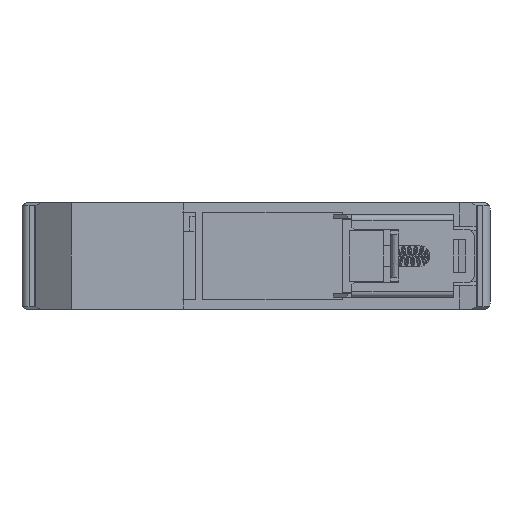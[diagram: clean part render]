
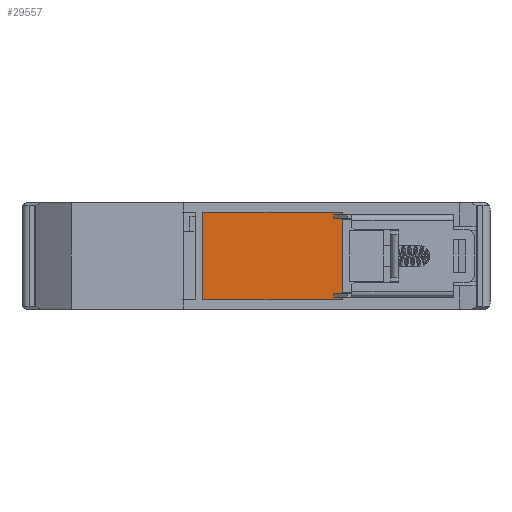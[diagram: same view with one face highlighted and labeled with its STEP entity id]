
A CAD part, front view. The second image highlights one B-rep face of the part: STEP entity #29557.
In plain terms, the highlighted planar face has unit normal (0, -1, 0).
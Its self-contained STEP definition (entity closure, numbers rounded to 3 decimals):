
#27787 = PLANE('',#27788);
#27788 = AXIS2_PLACEMENT_3D('',#27789,#27790,#27791);
#27789 = CARTESIAN_POINT('',(264.589,-404.101,154.75));
#27790 = DIRECTION('',(-1.,0.,0.));
#27791 = DIRECTION('',(0.,-1.,0.));
#29408 = VERTEX_POINT('',#29409);
#29409 = CARTESIAN_POINT('',(264.589,-402.101,164.05));
#29423 = PLANE('',#29424);
#29424 = AXIS2_PLACEMENT_3D('',#29425,#29426,#29427);
#29425 = CARTESIAN_POINT('',(196.789,-338.976,164.05));
#29426 = DIRECTION('',(0.,0.,-1.));
#29427 = DIRECTION('',(-1.,0.,0.));
#29435 = EDGE_CURVE('',#29408,#29436,#29438,.T.);
#29436 = VERTEX_POINT('',#29437);
#29437 = CARTESIAN_POINT('',(264.589,-402.101,145.5));
#29438 = SURFACE_CURVE('',#29439,(#29443,#29450),.PCURVE_S1.);
#29439 = LINE('',#29440,#29441);
#29440 = CARTESIAN_POINT('',(264.589,-402.101,164.05));
#29441 = VECTOR('',#29442,1.);
#29442 = DIRECTION('',(0.,0.,-1.));
#29443 = PCURVE('',#27787,#29444);
#29444 = DEFINITIONAL_REPRESENTATION('',(#29445),#29449);
#29445 = LINE('',#29446,#29447);
#29446 = CARTESIAN_POINT('',(-2.,9.3));
#29447 = VECTOR('',#29448,1.);
#29448 = DIRECTION('',(0.,-1.));
#29449 = ( GEOMETRIC_REPRESENTATION_CONTEXT(2) 
PARAMETRIC_REPRESENTATION_CONTEXT() REPRESENTATION_CONTEXT('2D SPACE',''
  ) );
#29450 = PCURVE('',#29451,#29456);
#29451 = PLANE('',#29452);
#29452 = AXIS2_PLACEMENT_3D('',#29453,#29454,#29455);
#29453 = CARTESIAN_POINT('',(264.589,-402.101,154.75));
#29454 = DIRECTION('',(0.,-1.,0.));
#29455 = DIRECTION('',(-1.,0.,0.));
#29456 = DEFINITIONAL_REPRESENTATION('',(#29457),#29461);
#29457 = LINE('',#29458,#29459);
#29458 = CARTESIAN_POINT('',(0.,-9.3));
#29459 = VECTOR('',#29460,1.);
#29460 = DIRECTION('',(-0.,1.));
#29461 = ( GEOMETRIC_REPRESENTATION_CONTEXT(2) 
PARAMETRIC_REPRESENTATION_CONTEXT() REPRESENTATION_CONTEXT('2D SPACE',''
  ) );
#29479 = PLANE('',#29480);
#29480 = AXIS2_PLACEMENT_3D('',#29481,#29482,#29483);
#29481 = CARTESIAN_POINT('',(196.789,-338.976,145.5));
#29482 = DIRECTION('',(0.,0.,1.));
#29483 = DIRECTION('',(-1.,0.,0.));
#29557 = ADVANCED_FACE('',(#29558),#29451,.T.);
#29558 = FACE_BOUND('',#29559,.T.);
#29559 = EDGE_LOOP('',(#29560,#29590,#29611,#29612));
#29560 = ORIENTED_EDGE('',*,*,#29561,.T.);
#29561 = EDGE_CURVE('',#29562,#29564,#29566,.T.);
#29562 = VERTEX_POINT('',#29563);
#29563 = CARTESIAN_POINT('',(234.989,-402.101,164.05));
#29564 = VERTEX_POINT('',#29565);
#29565 = CARTESIAN_POINT('',(234.989,-402.101,145.5));
#29566 = SURFACE_CURVE('',#29567,(#29571,#29578),.PCURVE_S1.);
#29567 = LINE('',#29568,#29569);
#29568 = CARTESIAN_POINT('',(234.989,-402.101,164.05));
#29569 = VECTOR('',#29570,1.);
#29570 = DIRECTION('',(0.,0.,-1.));
#29571 = PCURVE('',#29451,#29572);
#29572 = DEFINITIONAL_REPRESENTATION('',(#29573),#29577);
#29573 = LINE('',#29574,#29575);
#29574 = CARTESIAN_POINT('',(29.6,-9.3));
#29575 = VECTOR('',#29576,1.);
#29576 = DIRECTION('',(-0.,1.));
#29577 = ( GEOMETRIC_REPRESENTATION_CONTEXT(2) 
PARAMETRIC_REPRESENTATION_CONTEXT() REPRESENTATION_CONTEXT('2D SPACE',''
  ) );
#29578 = PCURVE('',#29579,#29584);
#29579 = PLANE('',#29580);
#29580 = AXIS2_PLACEMENT_3D('',#29581,#29582,#29583);
#29581 = CARTESIAN_POINT('',(234.989,-402.101,154.75));
#29582 = DIRECTION('',(1.,0.,0.));
#29583 = DIRECTION('',(0.,-1.,0.));
#29584 = DEFINITIONAL_REPRESENTATION('',(#29585),#29589);
#29585 = LINE('',#29586,#29587);
#29586 = CARTESIAN_POINT('',(0.,-9.3));
#29587 = VECTOR('',#29588,1.);
#29588 = DIRECTION('',(0.,1.));
#29589 = ( GEOMETRIC_REPRESENTATION_CONTEXT(2) 
PARAMETRIC_REPRESENTATION_CONTEXT() REPRESENTATION_CONTEXT('2D SPACE',''
  ) );
#29590 = ORIENTED_EDGE('',*,*,#29591,.F.);
#29591 = EDGE_CURVE('',#29436,#29564,#29592,.T.);
#29592 = SURFACE_CURVE('',#29593,(#29597,#29604),.PCURVE_S1.);
#29593 = LINE('',#29594,#29595);
#29594 = CARTESIAN_POINT('',(264.589,-402.101,145.5));
#29595 = VECTOR('',#29596,1.);
#29596 = DIRECTION('',(-1.,0.,0.));
#29597 = PCURVE('',#29451,#29598);
#29598 = DEFINITIONAL_REPRESENTATION('',(#29599),#29603);
#29599 = LINE('',#29600,#29601);
#29600 = CARTESIAN_POINT('',(-0.,9.25));
#29601 = VECTOR('',#29602,1.);
#29602 = DIRECTION('',(1.,0.));
#29603 = ( GEOMETRIC_REPRESENTATION_CONTEXT(2) 
PARAMETRIC_REPRESENTATION_CONTEXT() REPRESENTATION_CONTEXT('2D SPACE',''
  ) );
#29604 = PCURVE('',#29479,#29605);
#29605 = DEFINITIONAL_REPRESENTATION('',(#29606),#29610);
#29606 = LINE('',#29607,#29608);
#29607 = CARTESIAN_POINT('',(-67.8,63.125));
#29608 = VECTOR('',#29609,1.);
#29609 = DIRECTION('',(1.,0.));
#29610 = ( GEOMETRIC_REPRESENTATION_CONTEXT(2) 
PARAMETRIC_REPRESENTATION_CONTEXT() REPRESENTATION_CONTEXT('2D SPACE',''
  ) );
#29611 = ORIENTED_EDGE('',*,*,#29435,.F.);
#29612 = ORIENTED_EDGE('',*,*,#29613,.T.);
#29613 = EDGE_CURVE('',#29408,#29562,#29614,.T.);
#29614 = SURFACE_CURVE('',#29615,(#29619,#29626),.PCURVE_S1.);
#29615 = LINE('',#29616,#29617);
#29616 = CARTESIAN_POINT('',(264.589,-402.101,164.05));
#29617 = VECTOR('',#29618,1.);
#29618 = DIRECTION('',(-1.,0.,0.));
#29619 = PCURVE('',#29451,#29620);
#29620 = DEFINITIONAL_REPRESENTATION('',(#29621),#29625);
#29621 = LINE('',#29622,#29623);
#29622 = CARTESIAN_POINT('',(0.,-9.3));
#29623 = VECTOR('',#29624,1.);
#29624 = DIRECTION('',(1.,0.));
#29625 = ( GEOMETRIC_REPRESENTATION_CONTEXT(2) 
PARAMETRIC_REPRESENTATION_CONTEXT() REPRESENTATION_CONTEXT('2D SPACE',''
  ) );
#29626 = PCURVE('',#29423,#29627);
#29627 = DEFINITIONAL_REPRESENTATION('',(#29628),#29632);
#29628 = LINE('',#29629,#29630);
#29629 = CARTESIAN_POINT('',(-67.8,-63.125));
#29630 = VECTOR('',#29631,1.);
#29631 = DIRECTION('',(1.,0.));
#29632 = ( GEOMETRIC_REPRESENTATION_CONTEXT(2) 
PARAMETRIC_REPRESENTATION_CONTEXT() REPRESENTATION_CONTEXT('2D SPACE',''
  ) );
